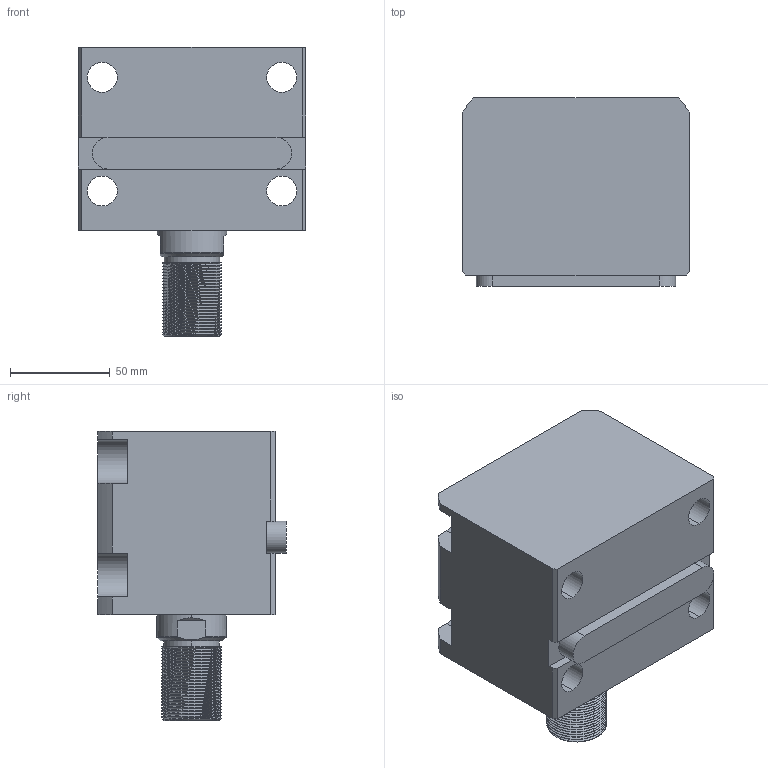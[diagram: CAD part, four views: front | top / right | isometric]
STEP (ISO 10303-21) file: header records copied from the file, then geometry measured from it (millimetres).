
FILE_DESCRIPTION (( 'STEP AP214' ), '1' );
FILE_NAME ('chtb-la63x25w_asm.STEP', '2018-05-17T02:58:55', ( 'Windows' ), ( 'Microsoft' ), 'SwSTEP 2.0', 'SolidWorks 2015', '' );
FILE_SCHEMA (( 'AUTOMOTIVE_DESIGN' ));
Length unit declared in the file: millimetre
Products named in the file (5): CHTB-LA63X25NBT; CHTB-LA63PJ; CHTB63X25WHSG; CHTB-63QG; chtb-la63x25w_asm
Assembly tree (4 placements, depth 2):
  chtb-la63x25w_asm
    CHTB-63QG
    CHTB63X25WHSG
    CHTB-LA63PJ
    CHTB-LA63X25NBT
Bounding box: 114 x 94.5 x 145 mm (x, y, z)
Volume: 839615.9 mm3; surface area: 139565.9 mm2
Topology: 4 solids, 4 shells, 228 faces, 670 edges, 457 vertices
Faces by surface type: cylinder 147, plane 48, bspline 14, cone 13, torus 6
Entity records: 22769 total; most frequent: CARTESIAN_POINT 17126, ORIENTED_EDGE 1332, DIRECTION 940, EDGE_CURVE 666, VERTEX_POINT 457, AXIS2_PLACEMENT_3D 350, EDGE_LOOP 253, LINE 240
